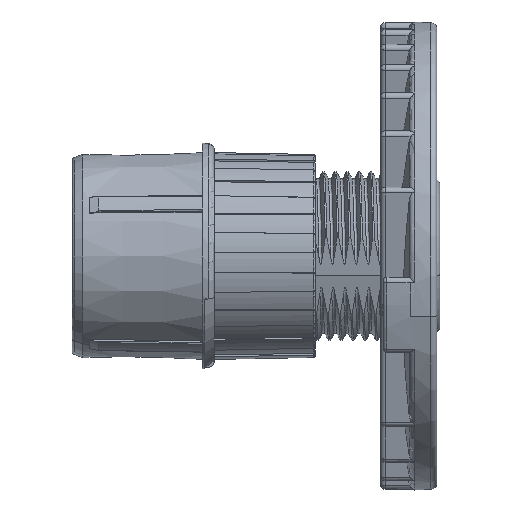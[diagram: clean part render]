
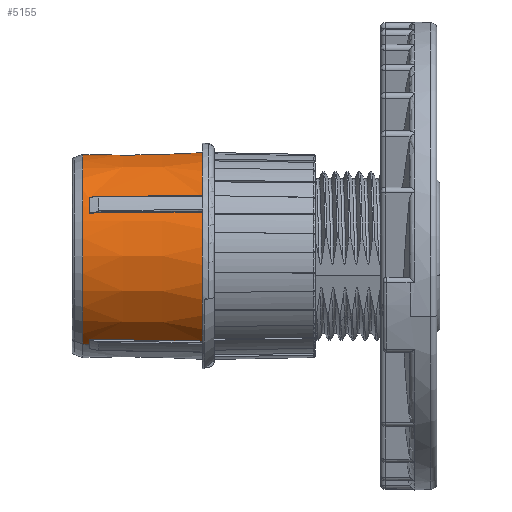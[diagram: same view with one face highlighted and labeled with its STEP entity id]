
A CAD part, left-side view. The second image highlights one B-rep face of the part: STEP entity #5155.
In plain terms, the highlighted conical face has half-angle 1 degrees and reference radius 17.285 mm.
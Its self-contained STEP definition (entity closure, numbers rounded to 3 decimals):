
#2=CARTESIAN_POINT('',(0.,0.,0.));
#3=DIRECTION('',(0.,-1.,0.));
#4=DIRECTION('',(0.996,0.,0.086));
#5=AXIS2_PLACEMENT_3D('',#2,#3,#4);
#7=CARTESIAN_POINT('',(0.,0.,0.));
#8=DIRECTION('',(0.,-1.,0.));
#9=DIRECTION('',(-0.086,0.,0.996));
#10=AXIS2_PLACEMENT_3D('',#7,#8,#9);
#16=CARTESIAN_POINT('',(0.,19.,0.));
#17=DIRECTION('',(0.,-1.,0.));
#18=DIRECTION('',(1.,0.,0.));
#19=AXIS2_PLACEMENT_3D('',#16,#17,#18);
#69=CARTESIAN_POINT('',(0.,19.,0.));
#70=DIRECTION('',(0.,-1.,0.));
#71=DIRECTION('',(0.088,0.,0.996));
#72=AXIS2_PLACEMENT_3D('',#69,#70,#71);
#84=CARTESIAN_POINT('',(-1.5,0.,17.395));
#85=CARTESIAN_POINT('',(-1.5,2.117,17.358));
#86=CARTESIAN_POINT('',(-1.5,6.347,17.284));
#87=CARTESIAN_POINT('',(-1.5,12.68,17.173));
#88=CARTESIAN_POINT('',(-1.5,16.895,17.099));
#89=CARTESIAN_POINT('',(-1.5,19.,17.063));
#172=CARTESIAN_POINT('',(1.5,19.,17.063));
#173=CARTESIAN_POINT('',(1.5,16.895,17.099));
#174=CARTESIAN_POINT('',(1.5,12.681,17.173));
#175=CARTESIAN_POINT('',(1.5,6.347,17.284));
#176=CARTESIAN_POINT('',(1.5,2.117,17.358));
#177=CARTESIAN_POINT('',(1.5,0.,17.395));
#4081=CARTESIAN_POINT('',(0.,20.09,0.));
#4082=DIRECTION('',(0.,-1.,0.));
#4083=DIRECTION('',(1.,0.,0.));
#4084=AXIS2_PLACEMENT_3D('',#4081,#4082,#4083);
#4086=DIRECTION('',(-0.017,1.,0.));
#4087=VECTOR('',#4086,1.09);
#4088=CARTESIAN_POINT('',(17.128,19.,0.));
#4089=LINE('',#4088,#4087);
#4090=DIRECTION('',(0.017,1.,0.));
#4091=VECTOR('',#4090,1.09);
#4092=CARTESIAN_POINT('',(-17.128,19.,0.));
#4093=LINE('',#4092,#4091);
#4113=CARTESIAN_POINT('',(0.,19.,0.));
#4114=DIRECTION('',(0.,-1.,0.));
#4115=DIRECTION('',(-0.996,0.,0.088));
#4116=AXIS2_PLACEMENT_3D('',#4113,#4114,#4115);
#4216=CARTESIAN_POINT('',(-17.063,19.,1.5));
#4217=CARTESIAN_POINT('',(-17.099,16.895,1.5));
#4218=CARTESIAN_POINT('',(-17.173,12.681,1.5));
#4219=CARTESIAN_POINT('',(-17.284,6.347,1.5));
#4220=CARTESIAN_POINT('',(-17.358,2.117,1.5));
#4221=CARTESIAN_POINT('',(-17.395,0.,1.5));
#4436=CARTESIAN_POINT('',(17.395,0.,1.5));
#4437=CARTESIAN_POINT('',(17.358,2.117,1.5));
#4438=CARTESIAN_POINT('',(17.284,6.347,1.5));
#4439=CARTESIAN_POINT('',(17.173,12.68,1.5));
#4440=CARTESIAN_POINT('',(17.099,16.895,1.5));
#4441=CARTESIAN_POINT('',(17.063,19.,1.5));
#4505=CARTESIAN_POINT('',(17.109,20.09,0.));
#4506=CARTESIAN_POINT('',(-17.109,20.09,0.));
#4507=VERTEX_POINT('',#4505);
#4508=VERTEX_POINT('',#4506);
#4509=CARTESIAN_POINT('',(1.5,19.,17.063));
#4510=CARTESIAN_POINT('',(-1.5,19.,17.063));
#4511=VERTEX_POINT('',#4509);
#4512=VERTEX_POINT('',#4510);
#4513=VERTEX_POINT('',#84);
#4514=VERTEX_POINT('',#177);
#4515=CARTESIAN_POINT('',(-17.063,19.,1.5));
#4516=CARTESIAN_POINT('',(-17.128,19.,0.));
#4517=VERTEX_POINT('',#4515);
#4518=VERTEX_POINT('',#4516);
#4519=VERTEX_POINT('',#4221);
#4529=CARTESIAN_POINT('',(17.128,19.,0.));
#4530=CARTESIAN_POINT('',(17.063,19.,1.5));
#4531=VERTEX_POINT('',#4529);
#4532=VERTEX_POINT('',#4530);
#4533=VERTEX_POINT('',#4436);
#5124=CARTESIAN_POINT('',(0.,10.045,0.));
#5125=DIRECTION('',(0.,-1.,0.));
#5126=DIRECTION('',(-1.,0.,0.));
#5127=AXIS2_PLACEMENT_3D('',#5124,#5125,#5126);
#5128=CONICAL_SURFACE('',#5127,17.285,1.);
#5130=ORIENTED_EDGE('',*,*,#5129,.T.);
#5132=ORIENTED_EDGE('',*,*,#5131,.F.);
#5134=ORIENTED_EDGE('',*,*,#5133,.T.);
#5136=ORIENTED_EDGE('',*,*,#5135,.F.);
#5138=ORIENTED_EDGE('',*,*,#5137,.T.);
#5140=ORIENTED_EDGE('',*,*,#5139,.F.);
#5142=ORIENTED_EDGE('',*,*,#5141,.T.);
#5144=ORIENTED_EDGE('',*,*,#5143,.F.);
#5146=ORIENTED_EDGE('',*,*,#5145,.T.);
#5148=ORIENTED_EDGE('',*,*,#5147,.T.);
#5150=ORIENTED_EDGE('',*,*,#5149,.F.);
#5152=ORIENTED_EDGE('',*,*,#5151,.F.);
#5153=EDGE_LOOP('',(#5130,#5132,#5134,#5136,#5138,#5140,#5142,#5144,#5146,#5148,
#5150,#5152));
#5154=FACE_OUTER_BOUND('',#5153,.F.);
#5155=ADVANCED_FACE('',(#5154),#5128,.T.);
#6=CIRCLE('',#5,17.46);
#11=CIRCLE('',#10,17.46);
#20=CIRCLE('',#19,17.128);
#73=CIRCLE('',#72,17.128);
#90=B_SPLINE_CURVE_WITH_KNOTS('',3,(#84,#85,#86,#87,#88,#89),.UNSPECIFIED.,.F.,
.F.,(4,1,1,4),(0.,0.333,0.667,1.),.UNSPECIFIED.);
#178=B_SPLINE_CURVE_WITH_KNOTS('',3,(#172,#173,#174,#175,#176,#177),
.UNSPECIFIED.,.F.,.F.,(4,1,1,4),(0.,0.333,0.667,1.),
.UNSPECIFIED.);
#4085=CIRCLE('',#4084,17.109);
#4117=CIRCLE('',#4116,17.128);
#4222=B_SPLINE_CURVE_WITH_KNOTS('',3,(#4216,#4217,#4218,#4219,#4220,#4221),
.UNSPECIFIED.,.F.,.F.,(4,1,1,4),(0.,0.333,0.667,1.),
.UNSPECIFIED.);
#4442=B_SPLINE_CURVE_WITH_KNOTS('',3,(#4436,#4437,#4438,#4439,#4440,#4441),
.UNSPECIFIED.,.F.,.F.,(4,1,1,4),(0.,0.333,0.667,1.),
.UNSPECIFIED.);
#5129=EDGE_CURVE('',#4531,#4532,#20,.T.);
#5131=EDGE_CURVE('',#4533,#4532,#4442,.T.);
#5133=EDGE_CURVE('',#4533,#4514,#6,.T.);
#5135=EDGE_CURVE('',#4511,#4514,#178,.T.);
#5137=EDGE_CURVE('',#4511,#4512,#73,.T.);
#5139=EDGE_CURVE('',#4513,#4512,#90,.T.);
#5141=EDGE_CURVE('',#4513,#4519,#11,.T.);
#5143=EDGE_CURVE('',#4517,#4519,#4222,.T.);
#5145=EDGE_CURVE('',#4517,#4518,#4117,.T.);
#5147=EDGE_CURVE('',#4518,#4508,#4093,.T.);
#5149=EDGE_CURVE('',#4507,#4508,#4085,.T.);
#5151=EDGE_CURVE('',#4531,#4507,#4089,.T.);
